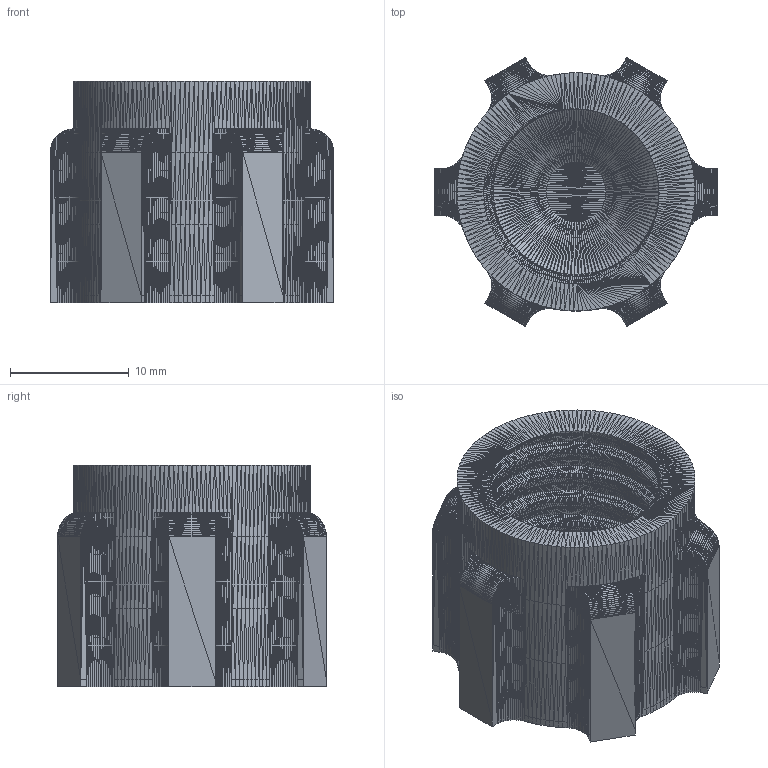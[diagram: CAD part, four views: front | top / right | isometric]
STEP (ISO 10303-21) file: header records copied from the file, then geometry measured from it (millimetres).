
FILE_DESCRIPTION(/* description */ ('','CAx-IF Rec.Pracs.---Representation and Presentation of Product Manufacturing Information (PMI)---4.0---2014-10-13'),/* implementation_level */ '2;1');
FILE_NAME(/* name */ 'sg silicone cap kruh v1.step',/* time_stamp */ '2025-01-04T18:37:42+01:00',/* author */ (''),/* organization */ (''),/* preprocessor_version */ 'ST-DEVELOPER v20',/* originating_system */ 'Autodesk Translation Framework v13.20.0.188',/* authorisation */ '');
FILE_SCHEMA (('AP242_MANAGED_MODEL_BASED_3D_ENGINEERING_MIM_LF { 1 0 10303 442 1 1 4 }'));
Products named in the file (2): sg silicone cap kruh; Component1
Assembly tree (1 placements, depth 2):
  sg silicone cap kruh
    Component1
Bounding box: 23.84 x 22.6 x 18.6 mm (x, y, z)
Volume: 4531.7 mm3; surface area: 2986.1 mm2
Topology: 2 solids, 2 shells, 28726 faces, 43352 edges, 14632 vertices
Faces by surface type: plane 28722, cylinder 4
Full cylindrical faces by diameter (mm): 10 x2, 12 x2
Entity records: 562618 total; most frequent: DIRECTION 100818, CARTESIAN_POINT 86713, ORIENTED_EDGE 86704, EDGE_CURVE 43352, LINE 43344, VECTOR 43344, AXIS2_PLACEMENT_3D 28737, EDGE_LOOP 28730
